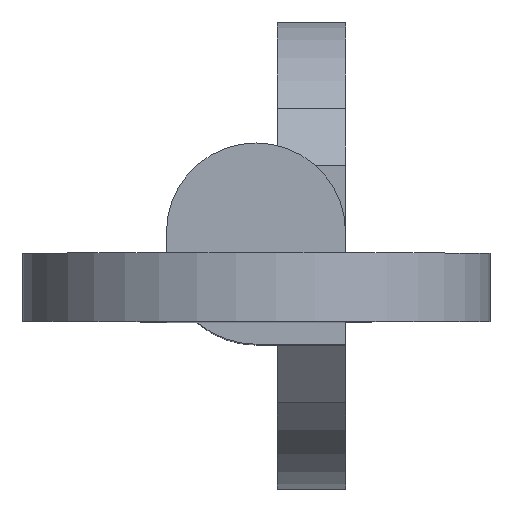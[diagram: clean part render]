
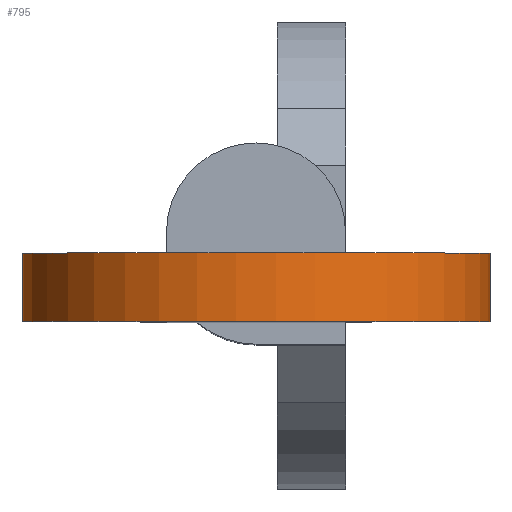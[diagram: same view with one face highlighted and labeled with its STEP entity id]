
A CAD part, top view. The second image highlights one B-rep face of the part: STEP entity #795.
In plain terms, the highlighted cylindrical face has radius 5.205 mm (diameter 10.41 mm), a partial arc.
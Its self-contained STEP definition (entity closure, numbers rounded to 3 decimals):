
#6 = DIRECTION ( 'NONE',  ( 0., 0., -1. ) ) ;
#34 = ORIENTED_EDGE ( 'NONE', *, *, #255, .T. ) ;
#73 = EDGE_LOOP ( 'NONE', ( #318, #640, #85, #34 ) ) ;
#85 = ORIENTED_EDGE ( 'NONE', *, *, #244, .T. ) ;
#88 = DIRECTION ( 'NONE',  ( 0., -1., 0. ) ) ;
#107 = AXIS2_PLACEMENT_3D ( 'NONE', #336, #820, #6 ) ;
#121 = DIRECTION ( 'NONE',  ( 0., -1., 0. ) ) ;
#138 = LINE ( 'NONE', #273, #608 ) ;
#150 = AXIS2_PLACEMENT_3D ( 'NONE', #735, #121, #338 ) ;
#168 = VERTEX_POINT ( 'NONE', #661 ) ;
#227 = LINE ( 'NONE', #641, #721 ) ;
#244 = EDGE_CURVE ( 'NONE', #168, #710, #423, .T. ) ;
#255 = EDGE_CURVE ( 'NONE', #710, #574, #138, .T. ) ;
#273 = CARTESIAN_POINT ( 'NONE',  ( -3.264, -0.47, 148.345 ) ) ;
#318 = ORIENTED_EDGE ( 'NONE', *, *, #695, .F. ) ;
#320 = CIRCLE ( 'NONE', #150, 5.205 ) ;
#325 = CARTESIAN_POINT ( 'NONE',  ( 3.264, -1.99, 148.345 ) ) ;
#336 = CARTESIAN_POINT ( 'NONE',  ( 0., -0.47, 152.4 ) ) ;
#338 = DIRECTION ( 'NONE',  ( 0., 0., -1. ) ) ;
#353 = VERTEX_POINT ( 'NONE', #325 ) ;
#367 = CYLINDRICAL_SURFACE ( 'NONE', #536, 5.205 ) ;
#396 = CARTESIAN_POINT ( 'NONE',  ( -3.264, -1.99, 148.345 ) ) ;
#417 = CARTESIAN_POINT ( 'NONE',  ( 0., -0.47, 152.4 ) ) ;
#423 = CIRCLE ( 'NONE', #107, 5.205 ) ;
#536 = AXIS2_PLACEMENT_3D ( 'NONE', #417, #702, #696 ) ;
#574 = VERTEX_POINT ( 'NONE', #396 ) ;
#608 = VECTOR ( 'NONE', #741, 1000. ) ;
#640 = ORIENTED_EDGE ( 'NONE', *, *, #723, .F. ) ;
#641 = CARTESIAN_POINT ( 'NONE',  ( 3.264, -0.47, 148.345 ) ) ;
#661 = CARTESIAN_POINT ( 'NONE',  ( 3.264, -0.47, 148.345 ) ) ;
#695 = EDGE_CURVE ( 'NONE', #353, #574, #320, .T. ) ;
#696 = DIRECTION ( 'NONE',  ( 0., 0., -1. ) ) ;
#702 = DIRECTION ( 'NONE',  ( 0., -1., 0. ) ) ;
#707 = FACE_OUTER_BOUND ( 'NONE', #73, .T. ) ;
#710 = VERTEX_POINT ( 'NONE', #743 ) ;
#721 = VECTOR ( 'NONE', #88, 1000. ) ;
#723 = EDGE_CURVE ( 'NONE', #168, #353, #227, .T. ) ;
#735 = CARTESIAN_POINT ( 'NONE',  ( 0., -1.99, 152.4 ) ) ;
#741 = DIRECTION ( 'NONE',  ( 0., -1., 0. ) ) ;
#743 = CARTESIAN_POINT ( 'NONE',  ( -3.264, -0.47, 148.345 ) ) ;
#795 = ADVANCED_FACE ( 'NONE', ( #707 ), #367, .T. ) ;
#820 = DIRECTION ( 'NONE',  ( 0., -1., 0. ) ) ;
